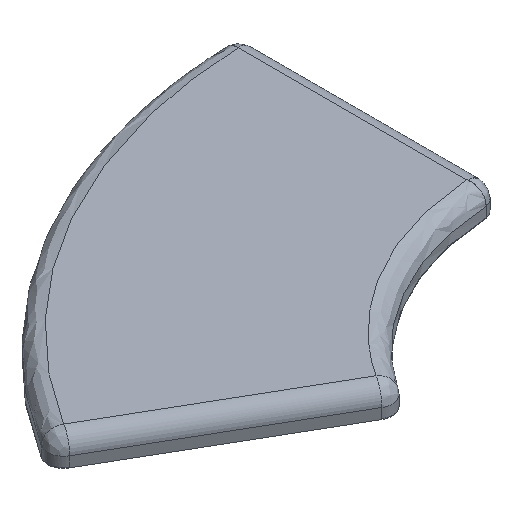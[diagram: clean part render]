
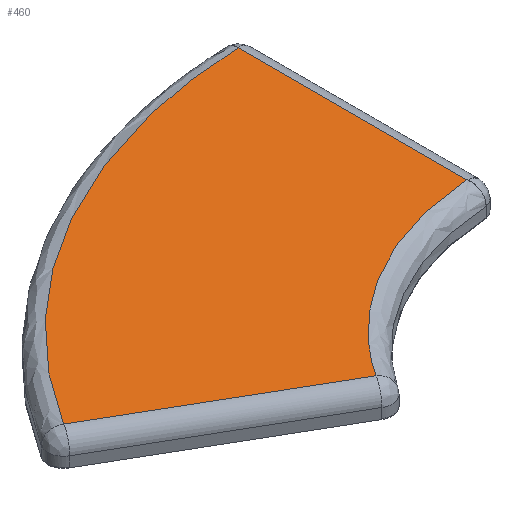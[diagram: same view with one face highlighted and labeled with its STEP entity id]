
A CAD part, isometric view. The second image highlights one B-rep face of the part: STEP entity #460.
In plain terms, the highlighted planar face has unit normal (0, 0, 1).
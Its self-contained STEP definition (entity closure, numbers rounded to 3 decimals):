
#111 = ORIENTED_EDGE ( 'NONE', *, *, #1079, .F. ) ;
#120 = VERTEX_POINT ( 'NONE', #876 ) ;
#121 = ORIENTED_EDGE ( 'NONE', *, *, #1363, .F. ) ;
#130 = CARTESIAN_POINT ( 'NONE',  ( -65.832, 40.895, 4. ) ) ;
#141 = CARTESIAN_POINT ( 'NONE',  ( -28.953, 76.604, 4. ) ) ;
#421 = DIRECTION ( 'NONE',  ( 0., 0., 1. ) ) ;
#458 = ORIENTED_EDGE ( 'NONE', *, *, #1832, .F. ) ;
#460 = ADVANCED_FACE ( 'NONE', ( #2097 ), #595, .T. ) ;
#483 = VERTEX_POINT ( 'NONE', #997 ) ;
#560 = CARTESIAN_POINT ( 'NONE',  ( -16.144, 41.621, 4. ) ) ;
#595 = PLANE ( 'NONE',  #1134 ) ;
#635 = EDGE_CURVE ( 'NONE', #483, #120, #1770, .T. ) ;
#660 = CARTESIAN_POINT ( 'NONE',  ( -35.492, 23.378, 4. ) ) ;
#671 = LINE ( 'NONE', #1312, #1099 ) ;
#770 = ORIENTED_EDGE ( 'NONE', *, *, #635, .F. ) ;
#801 = CARTESIAN_POINT ( 'NONE',  ( -2.505, 77.46, 4. ) ) ;
#834 = DIRECTION ( 'NONE',  ( -0.866, 0.5, 0. ) ) ;
#876 = CARTESIAN_POINT ( 'NONE',  ( -2.505, 42.426, 4. ) ) ;
#905 = DIRECTION ( 'NONE',  ( 0., -1., 0. ) ) ;
#997 = CARTESIAN_POINT ( 'NONE',  ( -2.505, 77.46, 4. ) ) ;
#1011 =( BOUNDED_CURVE ( )  B_SPLINE_CURVE ( 3, ( #130, #2146, #141, #801 ),
 .UNSPECIFIED., .F., .T. ) 
 B_SPLINE_CURVE_WITH_KNOTS ( ( 4, 4 ),
 ( 0., 1. ),
 .UNSPECIFIED. ) 
 CURVE ( )  GEOMETRIC_REPRESENTATION_ITEM ( )  RATIONAL_B_SPLINE_CURVE ( ( 1., 0.921, 0.921, 1. ) ) 
 REPRESENTATION_ITEM ( '' )  );
#1059 = CARTESIAN_POINT ( 'NONE',  ( -2.505, 42.426, 4. ) ) ;
#1072 = EDGE_LOOP ( 'NONE', ( #770, #121, #111, #458 ) ) ;
#1079 = EDGE_CURVE ( 'NONE', #1910, #1804, #671, .T. ) ;
#1099 = VECTOR ( 'NONE', #834, 1000. ) ;
#1134 = AXIS2_PLACEMENT_3D ( 'NONE', #2110, #421, #1272 ) ;
#1272 = DIRECTION ( 'NONE',  ( 1., 0., 0. ) ) ;
#1312 = CARTESIAN_POINT ( 'NONE',  ( -35.492, 23.378, 4. ) ) ;
#1363 = EDGE_CURVE ( 'NONE', #1804, #483, #1011, .T. ) ;
#1593 = CARTESIAN_POINT ( 'NONE',  ( -65.832, 40.895, 4. ) ) ;
#1770 = LINE ( 'NONE', #2082, #2093 ) ;
#1776 = CARTESIAN_POINT ( 'NONE',  ( -27.977, 34.789, 4. ) ) ;
#1804 = VERTEX_POINT ( 'NONE', #1593 ) ;
#1832 = EDGE_CURVE ( 'NONE', #120, #1910, #1924, .T. ) ;
#1910 = VERTEX_POINT ( 'NONE', #660 ) ;
#1921 = CARTESIAN_POINT ( 'NONE',  ( -35.492, 23.378, 4. ) ) ;
#1924 =( BOUNDED_CURVE ( )  B_SPLINE_CURVE ( 3, ( #1059, #560, #1776, #1921 ),
 .UNSPECIFIED., .F., .T. ) 
 B_SPLINE_CURVE_WITH_KNOTS ( ( 4, 4 ),
 ( 0., 1. ),
 .UNSPECIFIED. ) 
 CURVE ( )  GEOMETRIC_REPRESENTATION_ITEM ( )  RATIONAL_B_SPLINE_CURVE ( ( 1., 0.929, 0.929, 1. ) ) 
 REPRESENTATION_ITEM ( '' )  );
#2082 = CARTESIAN_POINT ( 'NONE',  ( -2.505, 240., 4. ) ) ;
#2093 = VECTOR ( 'NONE', #905, 1000. ) ;
#2097 = FACE_OUTER_BOUND ( 'NONE', #1072, .T. ) ;
#2110 = CARTESIAN_POINT ( 'NONE',  ( -33.558, 19.375, 4. ) ) ;
#2146 = CARTESIAN_POINT ( 'NONE',  ( -51.869, 63.373, 4. ) ) ;
